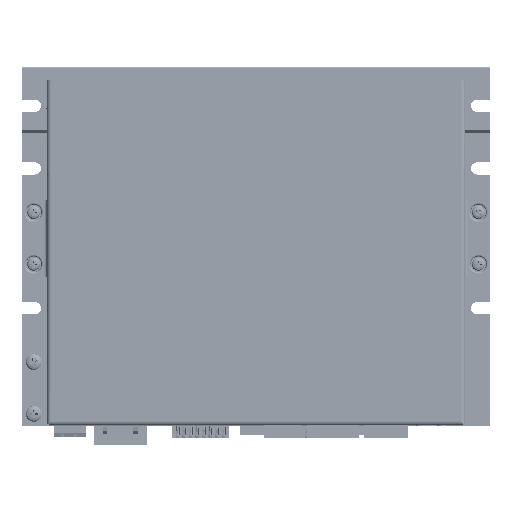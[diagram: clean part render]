
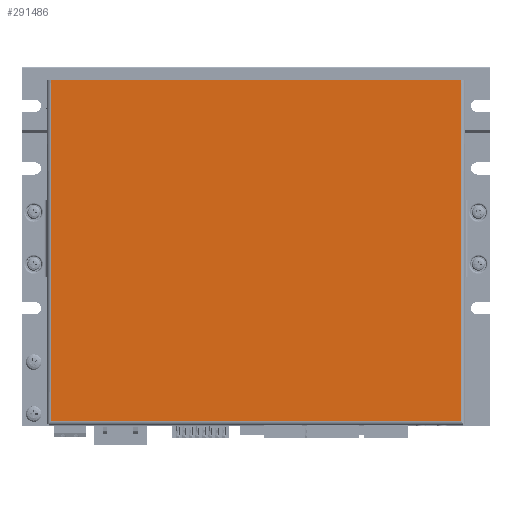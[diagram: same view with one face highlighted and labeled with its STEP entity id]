
A CAD part, top view. The second image highlights one B-rep face of the part: STEP entity #291486.
In plain terms, the highlighted planar face has unit normal (0, 0, 1).
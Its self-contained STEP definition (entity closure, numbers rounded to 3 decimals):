
#22817=LINE('',#419376,#49861);
#22844=LINE('',#419475,#49888);
#22845=LINE('',#419477,#49889);
#22846=LINE('',#419479,#49890);
#49861=VECTOR('',#346436,1000.);
#49888=VECTOR('',#346553,1000.);
#49889=VECTOR('',#346554,1000.);
#49890=VECTOR('',#346555,1000.);
#95613=ORIENTED_EDGE('',*,*,#147220,.T.);
#95614=ORIENTED_EDGE('',*,*,#147221,.T.);
#95615=ORIENTED_EDGE('',*,*,#147222,.T.);
#95616=ORIENTED_EDGE('',*,*,#147174,.T.);
#147174=EDGE_CURVE('',#175451,#175450,#22817,.T.);
#147220=EDGE_CURVE('',#175450,#175478,#22844,.T.);
#147221=EDGE_CURVE('',#175478,#175479,#22845,.T.);
#147222=EDGE_CURVE('',#175479,#175451,#22846,.T.);
#175450=VERTEX_POINT('',#419375);
#175451=VERTEX_POINT('',#419377);
#175478=VERTEX_POINT('',#419476);
#175479=VERTEX_POINT('',#419478);
#195319=EDGE_LOOP('',(#95613,#95614,#95615,#95616));
#209743=FACE_BOUND('',#195319,.T.);
#221542=PLANE('',#308269);
#291486=ADVANCED_FACE('',(#209743),#221542,.T.);
#308269=AXIS2_PLACEMENT_3D('',#419474,#346551,#346552);
#346436=DIRECTION('',(-1.,0.,0.));
#346551=DIRECTION('',(0.,0.,1.));
#346552=DIRECTION('',(1.,0.,0.));
#346553=DIRECTION('',(0.,-1.,0.));
#346554=DIRECTION('',(1.,0.,0.));
#346555=DIRECTION('',(0.,1.,0.));
#419375=CARTESIAN_POINT('',(-79.05,66.75,0.));
#419376=CARTESIAN_POINT('',(80.75,66.75,0.));
#419377=CARTESIAN_POINT('',(79.05,66.75,0.));
#419474=CARTESIAN_POINT('',(0.,0.,0.));
#419475=CARTESIAN_POINT('',(-79.05,66.75,0.));
#419476=CARTESIAN_POINT('',(-79.05,-65.05,0.));
#419477=CARTESIAN_POINT('',(-79.05,-65.05,0.));
#419478=CARTESIAN_POINT('',(79.05,-65.05,0.));
#419479=CARTESIAN_POINT('',(79.05,-66.75,0.));
